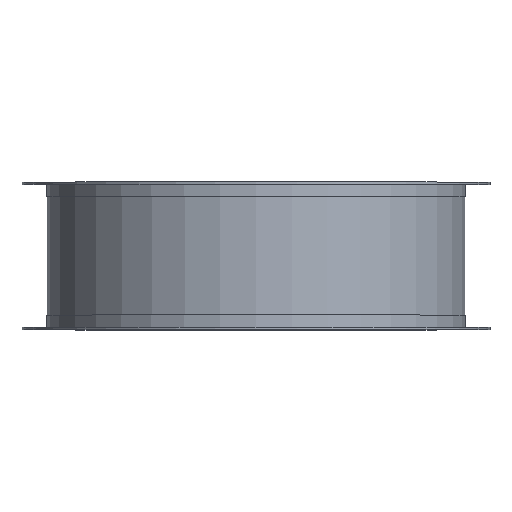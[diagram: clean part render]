
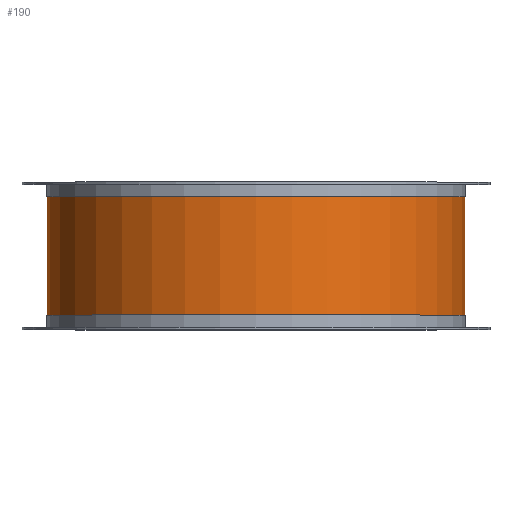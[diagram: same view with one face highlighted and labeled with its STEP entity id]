
A CAD part, top view. The second image highlights one B-rep face of the part: STEP entity #190.
In plain terms, the highlighted cylindrical face has radius 359.5 mm (diameter 719 mm), a partial arc.
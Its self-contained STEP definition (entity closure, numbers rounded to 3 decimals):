
#190=ADVANCED_FACE('',(#414),#415,.T.);
#414=FACE_OUTER_BOUND('',#629,.T.);
#415=CYLINDRICAL_SURFACE('',#630,359.5);
#629=EDGE_LOOP('',(#1137,#1138,#1139,#1140));
#630=AXIS2_PLACEMENT_3D('',#1141,#1142,#1143);
#1137=ORIENTED_EDGE('',*,*,#1145,.T.);
#1138=ORIENTED_EDGE('',*,*,#1302,.T.);
#1139=ORIENTED_EDGE('',*,*,#1147,.T.);
#1140=ORIENTED_EDGE('',*,*,#1341,.T.);
#1141=CARTESIAN_POINT('',(0.0,127.0,0.0));
#1142=DIRECTION('',(-0.0,1.0,0.0));
#1143=DIRECTION('',(1.0,0.0,0.0));
#1145=EDGE_CURVE('',#1345,#1346,#1347,.T.);
#1147=EDGE_CURVE('',#1350,#1348,#1351,.T.);
#1302=EDGE_CURVE('',#1346,#1350,#1598,.T.);
#1341=EDGE_CURVE('',#1348,#1345,#1637,.T.);
#1345=VERTEX_POINT('',#1641);
#1346=VERTEX_POINT('',#1642);
#1347=LINE('',#1643,#1644);
#1348=VERTEX_POINT('',#1645);
#1350=VERTEX_POINT('',#1647);
#1351=LINE('',#1648,#1649);
#1598=CIRCLE('',#1942,359.5);
#1637=CIRCLE('',#1981,359.5);
#1641=CARTESIAN_POINT('',(359.5,25.0,0.));
#1642=CARTESIAN_POINT('',(359.5,229.0,0.));
#1643=CARTESIAN_POINT('',(359.5,127.0,0.));
#1644=VECTOR('',#1984,1.0);
#1645=CARTESIAN_POINT('',(-359.5,25.0,0.));
#1647=CARTESIAN_POINT('',(-359.5,229.0,0.));
#1648=CARTESIAN_POINT('',(-359.5,127.0,0.));
#1649=VECTOR('',#1988,1.0);
#1942=AXIS2_PLACEMENT_3D('',#2245,#2246,#2247);
#1981=AXIS2_PLACEMENT_3D('',#2317,#2318,#2319);
#1984=DIRECTION('',(0.0,1.0,0.0));
#1988=DIRECTION('',(-0.0,-1.0,-0.0));
#2245=CARTESIAN_POINT('',(0.0,229.0,0.0));
#2246=DIRECTION('',(0.0,-1.0,0.));
#2247=DIRECTION('',(1.0,0.0,0.0));
#2317=CARTESIAN_POINT('',(0.0,25.0,0.0));
#2318=DIRECTION('',(-0.0,1.0,0.0));
#2319=DIRECTION('',(1.0,0.0,0.0));
